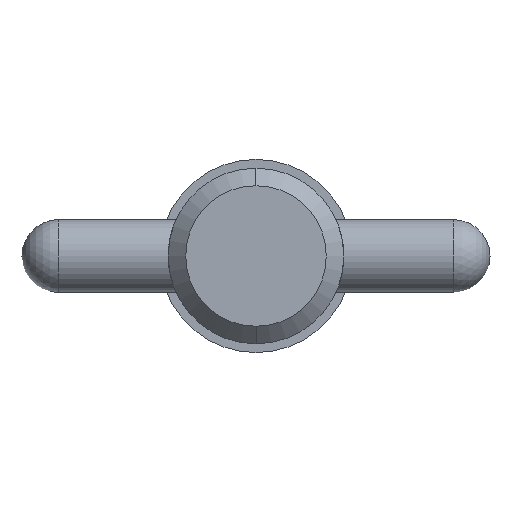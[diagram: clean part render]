
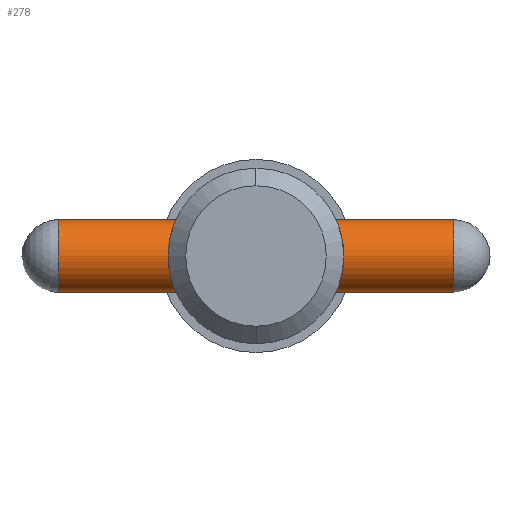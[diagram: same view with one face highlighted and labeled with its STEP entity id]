
A CAD part, left-side view. The second image highlights one B-rep face of the part: STEP entity #278.
In plain terms, the highlighted cylindrical face has radius 1.98 mm (diameter 3.96 mm), a partial arc.
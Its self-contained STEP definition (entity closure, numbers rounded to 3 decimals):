
#30 = LINE ( 'NONE', #198, #870 ) ;
#42 = EDGE_CURVE ( 'NONE', #682, #715, #536, .T. ) ;
#74 = EDGE_CURVE ( 'NONE', #715, #929, #155, .T. ) ;
#81 = FACE_OUTER_BOUND ( 'NONE', #711, .T. ) ;
#83 = AXIS2_PLACEMENT_3D ( 'NONE', #672, #926, #913 ) ;
#155 = CIRCLE ( 'NONE', #265, 1.98 ) ;
#163 = CARTESIAN_POINT ( 'NONE',  ( 0., -10.72, 0. ) ) ;
#174 = CARTESIAN_POINT ( 'NONE',  ( 0., -10.72, -1.98 ) ) ;
#198 = CARTESIAN_POINT ( 'NONE',  ( 0., 12.7, 1.98 ) ) ;
#265 = AXIS2_PLACEMENT_3D ( 'NONE', #163, #376, #531 ) ;
#277 = CARTESIAN_POINT ( 'NONE',  ( 0., -10.72, 1.98 ) ) ;
#278 = ADVANCED_FACE ( 'NONE', ( #81 ), #568, .T. ) ;
#319 = VECTOR ( 'NONE', #459, 1000. ) ;
#341 = DIRECTION ( 'NONE',  ( 0., -1., 0. ) ) ;
#349 = CIRCLE ( 'NONE', #83, 1.98 ) ;
#376 = DIRECTION ( 'NONE',  ( 0., 1., 0. ) ) ;
#435 = EDGE_CURVE ( 'NONE', #555, #682, #349, .T. ) ;
#438 = ORIENTED_EDGE ( 'NONE', *, *, #515, .F. ) ;
#442 = CARTESIAN_POINT ( 'NONE',  ( 0., 12.7, -1.98 ) ) ;
#459 = DIRECTION ( 'NONE',  ( 0., -1., 0. ) ) ;
#486 = DIRECTION ( 'NONE',  ( 0., 0., -1. ) ) ;
#508 = AXIS2_PLACEMENT_3D ( 'NONE', #723, #341, #486 ) ;
#515 = EDGE_CURVE ( 'NONE', #555, #929, #30, .T. ) ;
#531 = DIRECTION ( 'NONE',  ( 0., 0., -1. ) ) ;
#536 = LINE ( 'NONE', #442, #319 ) ;
#555 = VERTEX_POINT ( 'NONE', #825 ) ;
#568 = CYLINDRICAL_SURFACE ( 'NONE', #508, 1.98 ) ;
#633 = ORIENTED_EDGE ( 'NONE', *, *, #42, .T. ) ;
#672 = CARTESIAN_POINT ( 'NONE',  ( 0., 10.72, 0. ) ) ;
#674 = ORIENTED_EDGE ( 'NONE', *, *, #435, .T. ) ;
#679 = DIRECTION ( 'NONE',  ( 0., -1., 0. ) ) ;
#682 = VERTEX_POINT ( 'NONE', #1021 ) ;
#711 = EDGE_LOOP ( 'NONE', ( #438, #674, #633, #969 ) ) ;
#715 = VERTEX_POINT ( 'NONE', #174 ) ;
#723 = CARTESIAN_POINT ( 'NONE',  ( 0., 12.7, 0. ) ) ;
#825 = CARTESIAN_POINT ( 'NONE',  ( 0., 10.72, 1.98 ) ) ;
#870 = VECTOR ( 'NONE', #679, 1000. ) ;
#913 = DIRECTION ( 'NONE',  ( 0., 0., -1. ) ) ;
#926 = DIRECTION ( 'NONE',  ( 0., -1., 0. ) ) ;
#929 = VERTEX_POINT ( 'NONE', #277 ) ;
#969 = ORIENTED_EDGE ( 'NONE', *, *, #74, .T. ) ;
#1021 = CARTESIAN_POINT ( 'NONE',  ( 0., 10.72, -1.98 ) ) ;
